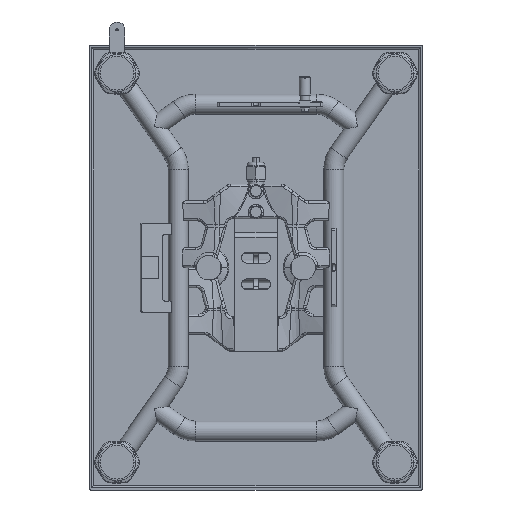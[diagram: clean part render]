
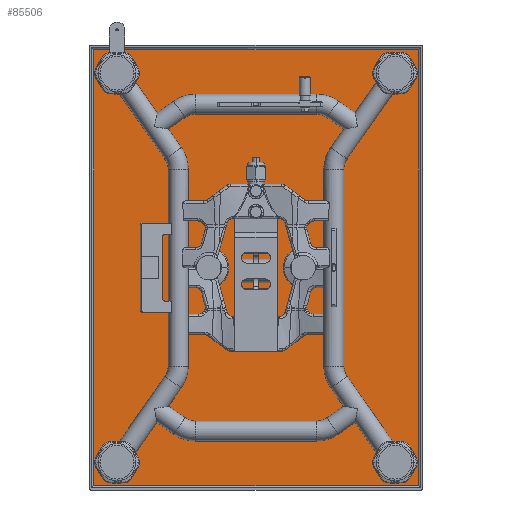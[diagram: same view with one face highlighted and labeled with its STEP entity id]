
A CAD part, front view. The second image highlights one B-rep face of the part: STEP entity #85506.
In plain terms, the highlighted planar face has unit normal (0, -1, 0).
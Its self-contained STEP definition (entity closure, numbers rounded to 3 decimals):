
#84718=DIRECTION('',(0.,0.,1.));
#84719=VECTOR('',#84718,392.);
#84720=CARTESIAN_POINT('',(-146.,50.5,-196.));
#84721=LINE('',#84720,#84719);
#84735=CARTESIAN_POINT('',(-125.,50.5,175.));
#84736=DIRECTION('',(0.,-1.,0.));
#84737=DIRECTION('',(0.,0.,1.));
#84738=AXIS2_PLACEMENT_3D('',#84735,#84736,#84737);
#84740=CARTESIAN_POINT('',(-125.,50.5,175.));
#84741=DIRECTION('',(0.,-1.,0.));
#84742=DIRECTION('',(0.,0.,-1.));
#84743=AXIS2_PLACEMENT_3D('',#84740,#84741,#84742);
#84745=CARTESIAN_POINT('',(-125.,50.5,-175.));
#84746=DIRECTION('',(0.,-1.,0.));
#84747=DIRECTION('',(0.,0.,1.));
#84748=AXIS2_PLACEMENT_3D('',#84745,#84746,#84747);
#84750=CARTESIAN_POINT('',(-125.,50.5,-175.));
#84751=DIRECTION('',(0.,-1.,0.));
#84752=DIRECTION('',(0.,0.,-1.));
#84753=AXIS2_PLACEMENT_3D('',#84750,#84751,#84752);
#84755=CARTESIAN_POINT('',(125.,50.5,175.));
#84756=DIRECTION('',(0.,-1.,0.));
#84757=DIRECTION('',(0.,0.,1.));
#84758=AXIS2_PLACEMENT_3D('',#84755,#84756,#84757);
#84760=CARTESIAN_POINT('',(125.,50.5,175.));
#84761=DIRECTION('',(0.,-1.,0.));
#84762=DIRECTION('',(0.,0.,-1.));
#84763=AXIS2_PLACEMENT_3D('',#84760,#84761,#84762);
#84765=CARTESIAN_POINT('',(125.,50.5,-175.));
#84766=DIRECTION('',(0.,-1.,0.));
#84767=DIRECTION('',(0.,0.,1.));
#84768=AXIS2_PLACEMENT_3D('',#84765,#84766,#84767);
#84770=CARTESIAN_POINT('',(125.,50.5,-175.));
#84771=DIRECTION('',(0.,-1.,0.));
#84772=DIRECTION('',(0.,0.,-1.));
#84773=AXIS2_PLACEMENT_3D('',#84770,#84771,#84772);
#84788=DIRECTION('',(1.,0.,0.));
#84789=VECTOR('',#84788,292.);
#84790=CARTESIAN_POINT('',(-146.,50.5,196.));
#84791=LINE('',#84790,#84789);
#84805=DIRECTION('',(0.,0.,-1.));
#84806=VECTOR('',#84805,392.);
#84807=CARTESIAN_POINT('',(146.,50.5,196.));
#84808=LINE('',#84807,#84806);
#84813=DIRECTION('',(-1.,0.,0.));
#84814=VECTOR('',#84813,292.);
#84815=CARTESIAN_POINT('',(146.,50.5,-196.));
#84816=LINE('',#84815,#84814);
#84921=CARTESIAN_POINT('',(-125.,50.5,177.55));
#84922=VERTEX_POINT('',#84921);
#84923=CARTESIAN_POINT('',(-125.,50.5,172.45));
#84924=VERTEX_POINT('',#84923);
#84925=CARTESIAN_POINT('',(-146.,50.5,196.));
#84926=CARTESIAN_POINT('',(146.,50.5,196.));
#84927=VERTEX_POINT('',#84925);
#84928=VERTEX_POINT('',#84926);
#84929=CARTESIAN_POINT('',(-146.,50.5,-196.));
#84930=VERTEX_POINT('',#84929);
#84931=CARTESIAN_POINT('',(146.,50.5,-196.));
#84932=VERTEX_POINT('',#84931);
#84933=CARTESIAN_POINT('',(-125.,50.5,-172.45));
#84934=CARTESIAN_POINT('',(-125.,50.5,-177.55));
#84935=VERTEX_POINT('',#84933);
#84936=VERTEX_POINT('',#84934);
#84937=CARTESIAN_POINT('',(125.,50.5,177.55));
#84938=CARTESIAN_POINT('',(125.,50.5,172.45));
#84939=VERTEX_POINT('',#84937);
#84940=VERTEX_POINT('',#84938);
#84941=CARTESIAN_POINT('',(125.,50.5,-172.45));
#84942=CARTESIAN_POINT('',(125.,50.5,-177.55));
#84943=VERTEX_POINT('',#84941);
#84944=VERTEX_POINT('',#84942);
#85469=CARTESIAN_POINT('',(0.,50.5,0.));
#85470=DIRECTION('',(0.,1.,0.));
#85471=DIRECTION('',(0.,0.,-1.));
#85472=AXIS2_PLACEMENT_3D('',#85469,#85470,#85471);
#85473=PLANE('',#85472);
#85475=ORIENTED_EDGE('',*,*,#85474,.T.);
#85477=ORIENTED_EDGE('',*,*,#85476,.T.);
#85479=ORIENTED_EDGE('',*,*,#85478,.T.);
#85480=ORIENTED_EDGE('',*,*,#85459,.T.);
#85481=EDGE_LOOP('',(#85475,#85477,#85479,#85480));
#85482=FACE_OUTER_BOUND('',#85481,.F.);
#85483=ORIENTED_EDGE('',*,*,#84962,.T.);
#85485=ORIENTED_EDGE('',*,*,#85484,.T.);
#85486=EDGE_LOOP('',(#85483,#85485));
#85487=FACE_BOUND('',#85486,.F.);
#85489=ORIENTED_EDGE('',*,*,#85488,.T.);
#85491=ORIENTED_EDGE('',*,*,#85490,.T.);
#85492=EDGE_LOOP('',(#85489,#85491));
#85493=FACE_BOUND('',#85492,.F.);
#85495=ORIENTED_EDGE('',*,*,#85494,.T.);
#85497=ORIENTED_EDGE('',*,*,#85496,.T.);
#85498=EDGE_LOOP('',(#85495,#85497));
#85499=FACE_BOUND('',#85498,.F.);
#85501=ORIENTED_EDGE('',*,*,#85500,.T.);
#85503=ORIENTED_EDGE('',*,*,#85502,.T.);
#85504=EDGE_LOOP('',(#85501,#85503));
#85505=FACE_BOUND('',#85504,.F.);
#85506=ADVANCED_FACE('',(#85482,#85487,#85493,#85499,#85505),#85473,.F.);
#84739=CIRCLE('',#84738,2.55);
#84744=CIRCLE('',#84743,2.55);
#84749=CIRCLE('',#84748,2.55);
#84754=CIRCLE('',#84753,2.55);
#84759=CIRCLE('',#84758,2.55);
#84764=CIRCLE('',#84763,2.55);
#84769=CIRCLE('',#84768,2.55);
#84774=CIRCLE('',#84773,2.55);
#84962=EDGE_CURVE('',#84922,#84924,#84739,.T.);
#85459=EDGE_CURVE('',#84930,#84927,#84721,.T.);
#85474=EDGE_CURVE('',#84927,#84928,#84791,.T.);
#85476=EDGE_CURVE('',#84928,#84932,#84808,.T.);
#85478=EDGE_CURVE('',#84932,#84930,#84816,.T.);
#85484=EDGE_CURVE('',#84924,#84922,#84744,.T.);
#85488=EDGE_CURVE('',#84935,#84936,#84749,.T.);
#85490=EDGE_CURVE('',#84936,#84935,#84754,.T.);
#85494=EDGE_CURVE('',#84939,#84940,#84759,.T.);
#85496=EDGE_CURVE('',#84940,#84939,#84764,.T.);
#85500=EDGE_CURVE('',#84943,#84944,#84769,.T.);
#85502=EDGE_CURVE('',#84944,#84943,#84774,.T.);
